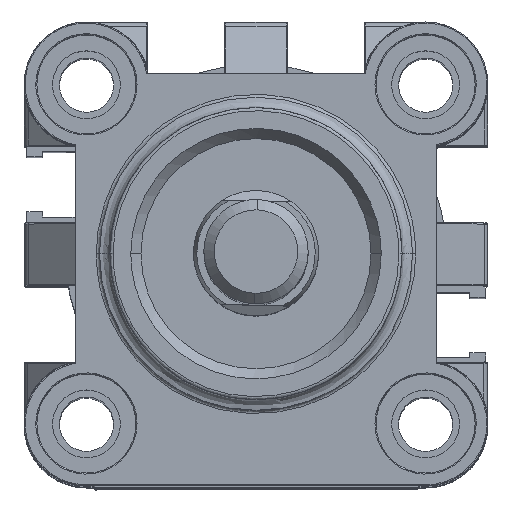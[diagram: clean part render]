
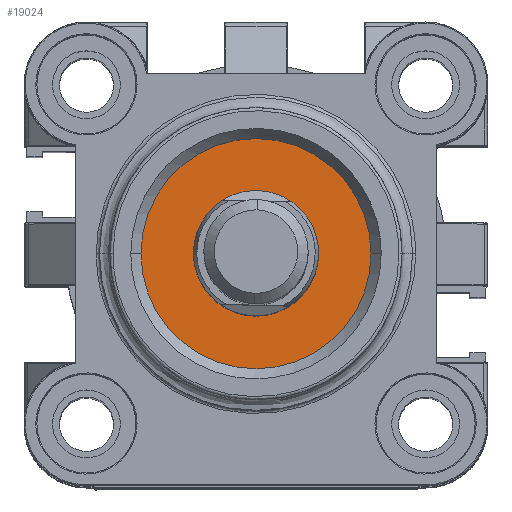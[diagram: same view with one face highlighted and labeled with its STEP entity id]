
A CAD part, top view. The second image highlights one B-rep face of the part: STEP entity #19024.
In plain terms, the highlighted planar face has unit normal (0, 0, 1).
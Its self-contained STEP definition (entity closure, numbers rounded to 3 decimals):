
#75 = DIRECTION ( 'NONE',  ( 0., 0., 1. ) ) ;
#915 = DIRECTION ( 'NONE',  ( 1., 0., 0. ) ) ;
#1378 = CIRCLE ( 'NONE', #7324, 6. ) ;
#2152 = VERTEX_POINT ( 'NONE', #4405 ) ;
#2437 = CIRCLE ( 'NONE', #12478, 6. ) ;
#2807 = ORIENTED_EDGE ( 'NONE', *, *, #12735, .T. ) ;
#3398 = DIRECTION ( 'NONE',  ( 0., 0., 1. ) ) ;
#3718 = CARTESIAN_POINT ( 'NONE',  ( 23.25, -17.25, 40.8 ) ) ;
#3925 = CARTESIAN_POINT ( 'NONE',  ( 17.25, -17.25, 40.8 ) ) ;
#4181 = ORIENTED_EDGE ( 'NONE', *, *, #12371, .F. ) ;
#4405 = CARTESIAN_POINT ( 'NONE',  ( 28.278, -17.25, 40.8 ) ) ;
#5170 = AXIS2_PLACEMENT_3D ( 'NONE', #3925, #15219, #5543 ) ;
#5264 = ORIENTED_EDGE ( 'NONE', *, *, #14577, .T. ) ;
#5509 = FACE_OUTER_BOUND ( 'NONE', #19119, .T. ) ;
#5543 = DIRECTION ( 'NONE',  ( 1., 0., 0. ) ) ;
#6350 = CARTESIAN_POINT ( 'NONE',  ( 17.25, -17.25, 40.8 ) ) ;
#7324 = AXIS2_PLACEMENT_3D ( 'NONE', #13052, #3398, #14691 ) ;
#8204 = CARTESIAN_POINT ( 'NONE',  ( 11.25, -17.25, 40.8 ) ) ;
#8420 = CARTESIAN_POINT ( 'NONE',  ( 17.25, -17.25, 40.8 ) ) ;
#8712 = CARTESIAN_POINT ( 'NONE',  ( 6.222, -17.25, 40.8 ) ) ;
#9264 = CIRCLE ( 'NONE', #5170, 11.028 ) ;
#9465 = VERTEX_POINT ( 'NONE', #8204 ) ;
#9737 = PLANE ( 'NONE',  #14272 ) ;
#9804 = FACE_BOUND ( 'NONE', #18069, .T. ) ;
#10028 = DIRECTION ( 'NONE',  ( 1., 0., 0. ) ) ;
#10031 = ORIENTED_EDGE ( 'NONE', *, *, #14493, .F. ) ;
#10594 = DIRECTION ( 'NONE',  ( 0., 0., 1. ) ) ;
#10621 = VERTEX_POINT ( 'NONE', #8712 ) ;
#11356 = DIRECTION ( 'NONE',  ( 1., 0., 0. ) ) ;
#11634 = AXIS2_PLACEMENT_3D ( 'NONE', #8420, #19675, #10028 ) ;
#12371 = EDGE_CURVE ( 'NONE', #19174, #9465, #2437, .T. ) ;
#12478 = AXIS2_PLACEMENT_3D ( 'NONE', #20239, #10594, #915 ) ;
#12735 = EDGE_CURVE ( 'NONE', #10621, #2152, #9264, .T. ) ;
#13052 = CARTESIAN_POINT ( 'NONE',  ( 17.25, -17.25, 40.8 ) ) ;
#13244 = CIRCLE ( 'NONE', #11634, 11.028 ) ;
#14272 = AXIS2_PLACEMENT_3D ( 'NONE', #6350, #75, #11356 ) ;
#14493 = EDGE_CURVE ( 'NONE', #9465, #19174, #1378, .T. ) ;
#14577 = EDGE_CURVE ( 'NONE', #2152, #10621, #13244, .T. ) ;
#14691 = DIRECTION ( 'NONE',  ( 1., 0., 0. ) ) ;
#15219 = DIRECTION ( 'NONE',  ( 0., 0., 1. ) ) ;
#18069 = EDGE_LOOP ( 'NONE', ( #4181, #10031 ) ) ;
#19024 = ADVANCED_FACE ( 'NONE', ( #5509, #9804 ), #9737, .T. ) ;
#19119 = EDGE_LOOP ( 'NONE', ( #5264, #2807 ) ) ;
#19174 = VERTEX_POINT ( 'NONE', #3718 ) ;
#19675 = DIRECTION ( 'NONE',  ( 0., 0., 1. ) ) ;
#20239 = CARTESIAN_POINT ( 'NONE',  ( 17.25, -17.25, 40.8 ) ) ;
